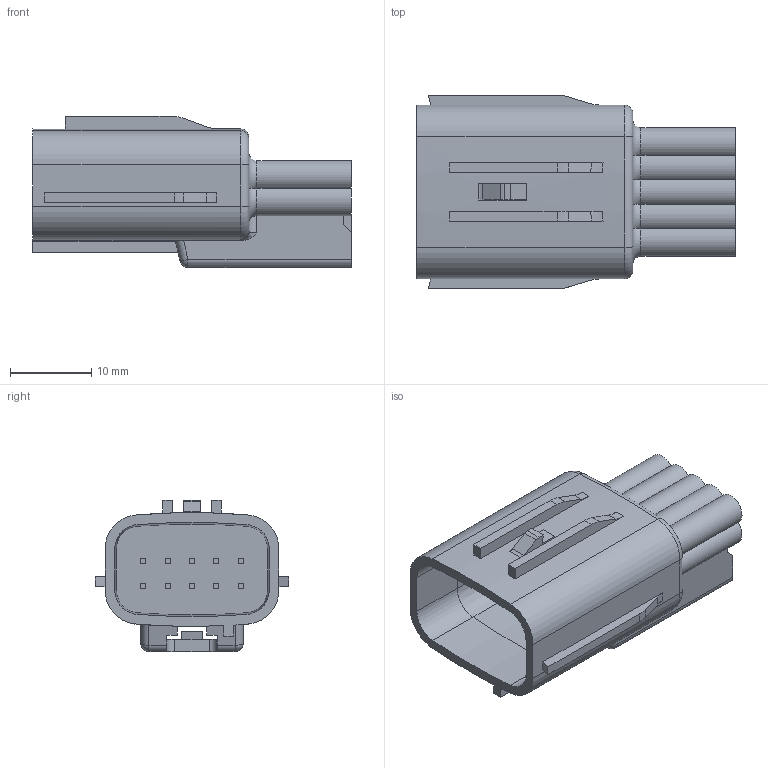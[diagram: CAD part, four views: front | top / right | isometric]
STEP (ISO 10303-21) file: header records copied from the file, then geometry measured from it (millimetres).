
FILE_DESCRIPTION(('CATIA V5 STEP Exchange'),'2;1');
FILE_NAME('N:\C-DAM_MyDesk\ENV\11093U\1設\6188-0696.stp','2013-02-28T02:58:03+00:00',('none'),('none'),'CATIA Version 5 Release 20 SP 4 (IN-10)','CATIA V5 STEP AP203','none');
FILE_SCHEMA(('CONFIG_CONTROL_DESIGN'));
Length unit declared in the file: millimetre
Products named in the file (1): 6188-0696
Bounding box: 39.2 x 23.8 x 18.6 mm (x, y, z)
Volume: 6135.1 mm3; surface area: 4646.6 mm2
Topology: 1 solids, 1 shells, 230 faces, 580 edges, 374 vertices
Faces by surface type: plane 143, cylinder 60, torus 12, bspline 7, cone 6, sphere 2
Entity records: 6864 total; most frequent: CARTESIAN_POINT 1632, ORIENTED_EDGE 1156, DIRECTION 874, EDGE_CURVE 578, VECTOR 394, LINE 394, VERTEX_POINT 374, AXIS2_PLACEMENT_3D 311
